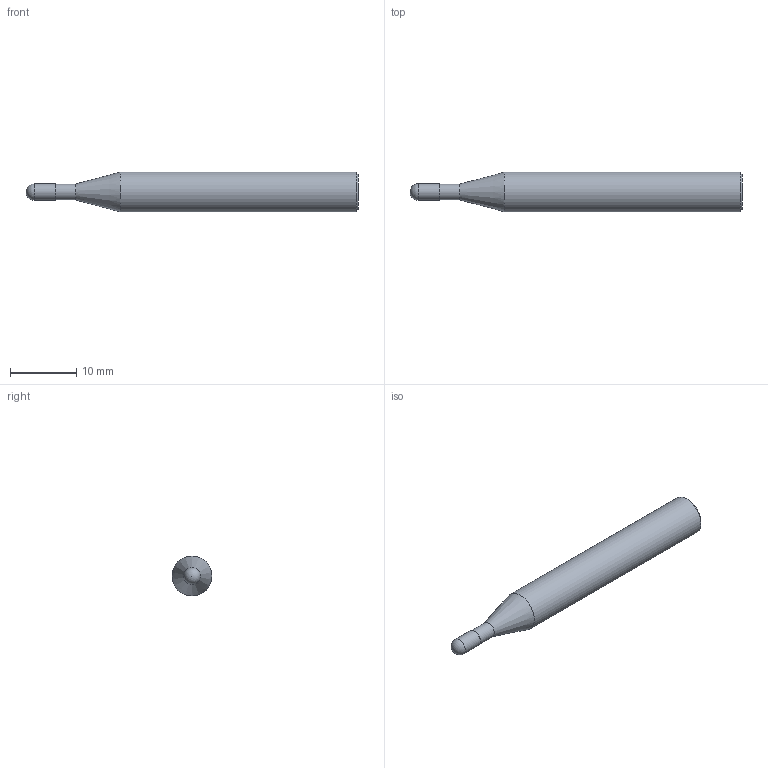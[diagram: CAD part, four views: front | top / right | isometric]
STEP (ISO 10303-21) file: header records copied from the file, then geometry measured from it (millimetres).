
FILE_DESCRIPTION(/* description */ (''),/* implementation_level */ '2;1');
FILE_NAME(/* name */ 'HSXBC4025 0650.stp',/* time_stamp */ '2026-01-27T10:26:08+08:00',/* author */ (''),/* organization */ (''),/* preprocessor_version */ 'ST-DEVELOPER v16',/* originating_system */ 'SIEMENS PLM Software NX 10.0',/* authorisation */ '');
FILE_SCHEMA (('CONFIG_CONTROL_DESIGN'));
Length unit declared in the file: millimetre
Products named in the file (1): HSXBC4025 0650_dxf
Bounding box: 50 x 6 x 6 mm (x, y, z)
Volume: 1143.3 mm3; surface area: 849.4 mm2
Topology: 1 solids, 1 shells, 8 faces, 15 edges, 9 vertices
Faces by surface type: cylinder 3, plane 2, cone 2, sphere 1
Full cylindrical faces by diameter (mm): 2.4 x1, 2.5 x1, 6 x1
Entity records: 238 total; most frequent: DIRECTION 32, CARTESIAN_POINT 23, AXIS2_PLACEMENT_3D 16, EDGE_LOOP 14, ORIENTED_EDGE 14, FACE_BOUND 12, ADVANCED_FACE 8, PERSON_AND_ORGANIZATION 7
